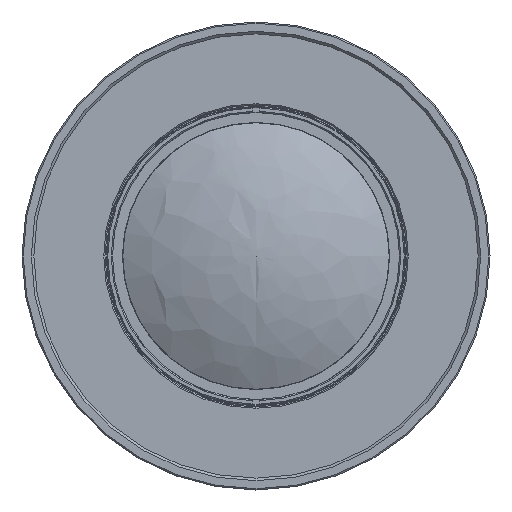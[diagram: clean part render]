
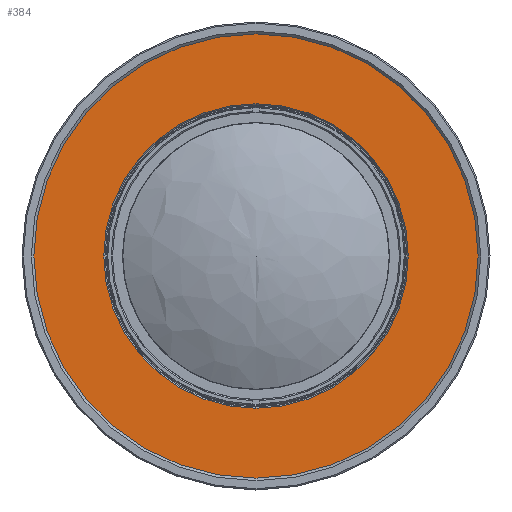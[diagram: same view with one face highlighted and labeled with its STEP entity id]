
A CAD part, front view. The second image highlights one B-rep face of the part: STEP entity #384.
In plain terms, the highlighted planar face has unit normal (0, -1, 0).
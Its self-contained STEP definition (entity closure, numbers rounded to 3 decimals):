
#384 = ADVANCED_FACE( 'NONE', ( #1016, #1017 ), #1018, .T. );
#1016 = FACE_OUTER_BOUND( '', #1985, .T. );
#1017 = FACE_BOUND( '', #1986, .T. );
#1018 = PLANE( '', #1987 );
#1985 = EDGE_LOOP( '', ( #3162 ) );
#1986 = EDGE_LOOP( '', ( #3163 ) );
#1987 = AXIS2_PLACEMENT_3D( '', #3164, #3165, #3166 );
#3162 = ORIENTED_EDGE( '', *, *, #5014, .T. );
#3163 = ORIENTED_EDGE( '', *, *, #5138, .F. );
#3164 = CARTESIAN_POINT( '', ( 0., -68.125, 24.4 ) );
#3165 = DIRECTION( '', ( 0., -1., 0. ) );
#3166 = DIRECTION( '', ( -1., 0., 0. ) );
#5014 = EDGE_CURVE( 'NONE', #5858, #5858, #5859, .T. );
#5138 = EDGE_CURVE( 'NONE', #6074, #6074, #6075, .T. );
#5858 = VERTEX_POINT( '', #7117 );
#5859 = CIRCLE( '', #7118, 36. );
#6074 = VERTEX_POINT( '', #7647 );
#6075 = CIRCLE( '', #7648, 24.4 );
#7117 = CARTESIAN_POINT( '', ( 36., -68.125, 0. ) );
#7118 = AXIS2_PLACEMENT_3D( '', #9501, #9502, #9503 );
#7647 = CARTESIAN_POINT( '', ( 24.4, -68.125, 0. ) );
#7648 = AXIS2_PLACEMENT_3D( '', #9642, #9643, #9644 );
#9501 = CARTESIAN_POINT( '', ( 0., -68.125, 0. ) );
#9502 = DIRECTION( '', ( 0., -1., 0. ) );
#9503 = DIRECTION( '', ( 1., 0., 0. ) );
#9642 = CARTESIAN_POINT( '', ( 0., -68.125, 0. ) );
#9643 = DIRECTION( '', ( 0., -1., 0. ) );
#9644 = DIRECTION( '', ( 1., 0., 0. ) );
